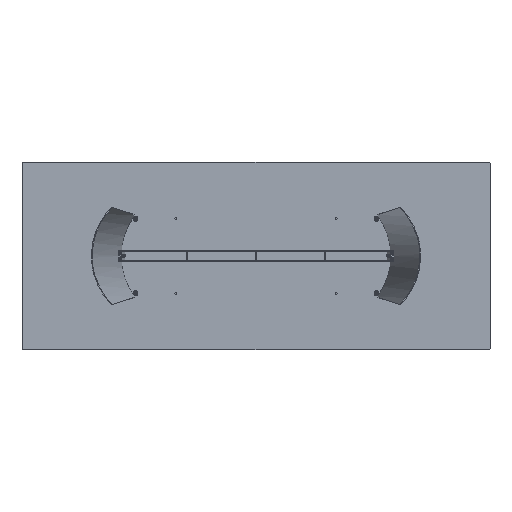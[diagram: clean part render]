
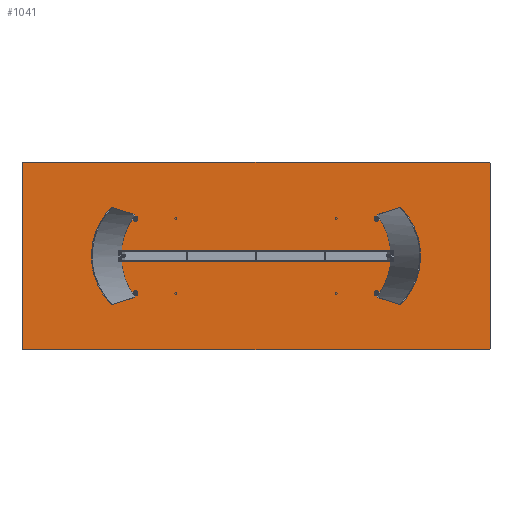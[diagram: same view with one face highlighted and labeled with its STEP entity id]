
A CAD part, front view. The second image highlights one B-rep face of the part: STEP entity #1041.
In plain terms, the highlighted planar face has unit normal (0, -1, 0).
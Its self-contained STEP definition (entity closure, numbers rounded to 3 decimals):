
#37 = CARTESIAN_POINT ( 'NONE',  ( 1495., 0., 595. ) ) ;
#174 = LINE ( 'NONE', #9023, #10109 ) ;
#390 = EDGE_CURVE ( 'NONE', #5722, #10344, #9994, .T. ) ;
#496 = LINE ( 'NONE', #7055, #5493 ) ;
#611 = DIRECTION ( 'NONE',  ( 0., 0., -1. ) ) ;
#924 = DIRECTION ( 'NONE',  ( -1., 0., 0. ) ) ;
#1041 = ADVANCED_FACE ( 'NONE', ( #4335 ), #8606, .F. ) ;
#1092 = DIRECTION ( 'NONE',  ( 0., 0., 1. ) ) ;
#1141 = AXIS2_PLACEMENT_3D ( 'NONE', #3358, #5310, #11296 ) ;
#1399 = DIRECTION ( 'NONE',  ( 0., 0., 1. ) ) ;
#1445 = DIRECTION ( 'NONE',  ( 1., 0., 0. ) ) ;
#2100 = DIRECTION ( 'NONE',  ( 0., -1., 0. ) ) ;
#2121 = VERTEX_POINT ( 'NONE', #7821 ) ;
#2320 = VECTOR ( 'NONE', #1399, 1000. ) ;
#2323 = CARTESIAN_POINT ( 'NONE',  ( -1500., 0., 600. ) ) ;
#2601 = CARTESIAN_POINT ( 'NONE',  ( 1500., 0., 595. ) ) ;
#2884 = DIRECTION ( 'NONE',  ( 0., -1., 0. ) ) ;
#3060 = CARTESIAN_POINT ( 'NONE',  ( 1500., 0., -595. ) ) ;
#3182 = LINE ( 'NONE', #2323, #6952 ) ;
#3358 = CARTESIAN_POINT ( 'NONE',  ( 0., 0., 0. ) ) ;
#3568 = DIRECTION ( 'NONE',  ( 0., 0., 1. ) ) ;
#3790 = ORIENTED_EDGE ( 'NONE', *, *, #7205, .T. ) ;
#3827 = CARTESIAN_POINT ( 'NONE',  ( -1500., 0., -600. ) ) ;
#3999 = DIRECTION ( 'NONE',  ( 0., -1., 0. ) ) ;
#4016 = AXIS2_PLACEMENT_3D ( 'NONE', #9997, #2100, #9127 ) ;
#4090 = AXIS2_PLACEMENT_3D ( 'NONE', #37, #8704, #3568 ) ;
#4335 = FACE_OUTER_BOUND ( 'NONE', #9571, .T. ) ;
#4900 = CIRCLE ( 'NONE', #5082, 5. ) ;
#4927 = CARTESIAN_POINT ( 'NONE',  ( -1495., 0., -595. ) ) ;
#5042 = EDGE_CURVE ( 'NONE', #10445, #5605, #7087, .T. ) ;
#5082 = AXIS2_PLACEMENT_3D ( 'NONE', #5414, #2884, #1092 ) ;
#5154 = CARTESIAN_POINT ( 'NONE',  ( 1495., 0., 600. ) ) ;
#5310 = DIRECTION ( 'NONE',  ( 0., 1., 0. ) ) ;
#5414 = CARTESIAN_POINT ( 'NONE',  ( -1495., 0., 595. ) ) ;
#5493 = VECTOR ( 'NONE', #611, 1000. ) ;
#5605 = VERTEX_POINT ( 'NONE', #10052 ) ;
#5722 = VERTEX_POINT ( 'NONE', #2601 ) ;
#6019 = VERTEX_POINT ( 'NONE', #3060 ) ;
#6187 = ORIENTED_EDGE ( 'NONE', *, *, #10802, .F. ) ;
#6810 = ORIENTED_EDGE ( 'NONE', *, *, #11284, .F. ) ;
#6876 = ORIENTED_EDGE ( 'NONE', *, *, #5042, .T. ) ;
#6952 = VECTOR ( 'NONE', #1445, 1000. ) ;
#7055 = CARTESIAN_POINT ( 'NONE',  ( 1500., 0., -600. ) ) ;
#7087 = CIRCLE ( 'NONE', #7645, 5. ) ;
#7177 = EDGE_CURVE ( 'NONE', #10445, #7444, #9704, .T. ) ;
#7205 = EDGE_CURVE ( 'NONE', #7387, #7444, #4900, .T. ) ;
#7387 = VERTEX_POINT ( 'NONE', #10102 ) ;
#7444 = VERTEX_POINT ( 'NONE', #9345 ) ;
#7570 = DIRECTION ( 'NONE',  ( 0., 0., 1. ) ) ;
#7645 = AXIS2_PLACEMENT_3D ( 'NONE', #4927, #3999, #7570 ) ;
#7821 = CARTESIAN_POINT ( 'NONE',  ( 1495., 0., -600. ) ) ;
#8606 = PLANE ( 'NONE',  #1141 ) ;
#8617 = CIRCLE ( 'NONE', #4016, 5. ) ;
#8702 = ORIENTED_EDGE ( 'NONE', *, *, #390, .T. ) ;
#8704 = DIRECTION ( 'NONE',  ( 0., -1., 0. ) ) ;
#9023 = CARTESIAN_POINT ( 'NONE',  ( -1500., 0., -600. ) ) ;
#9127 = DIRECTION ( 'NONE',  ( 0., 0., 1. ) ) ;
#9345 = CARTESIAN_POINT ( 'NONE',  ( -1500., 0., 595. ) ) ;
#9554 = ORIENTED_EDGE ( 'NONE', *, *, #10666, .T. ) ;
#9571 = EDGE_LOOP ( 'NONE', ( #6810, #8702, #6187, #3790, #10135, #6876, #10400, #9554 ) ) ;
#9704 = LINE ( 'NONE', #3827, #2320 ) ;
#9994 = CIRCLE ( 'NONE', #4090, 5. ) ;
#9997 = CARTESIAN_POINT ( 'NONE',  ( 1495., 0., -595. ) ) ;
#10052 = CARTESIAN_POINT ( 'NONE',  ( -1495., 0., -600. ) ) ;
#10102 = CARTESIAN_POINT ( 'NONE',  ( -1495., 0., 600. ) ) ;
#10109 = VECTOR ( 'NONE', #924, 1000. ) ;
#10135 = ORIENTED_EDGE ( 'NONE', *, *, #7177, .F. ) ;
#10344 = VERTEX_POINT ( 'NONE', #5154 ) ;
#10400 = ORIENTED_EDGE ( 'NONE', *, *, #10414, .F. ) ;
#10414 = EDGE_CURVE ( 'NONE', #2121, #5605, #174, .T. ) ;
#10445 = VERTEX_POINT ( 'NONE', #10685 ) ;
#10666 = EDGE_CURVE ( 'NONE', #2121, #6019, #8617, .T. ) ;
#10685 = CARTESIAN_POINT ( 'NONE',  ( -1500., 0., -595. ) ) ;
#10802 = EDGE_CURVE ( 'NONE', #7387, #10344, #3182, .T. ) ;
#11284 = EDGE_CURVE ( 'NONE', #5722, #6019, #496, .T. ) ;
#11296 = DIRECTION ( 'NONE',  ( 0., 0., 1. ) ) ;
